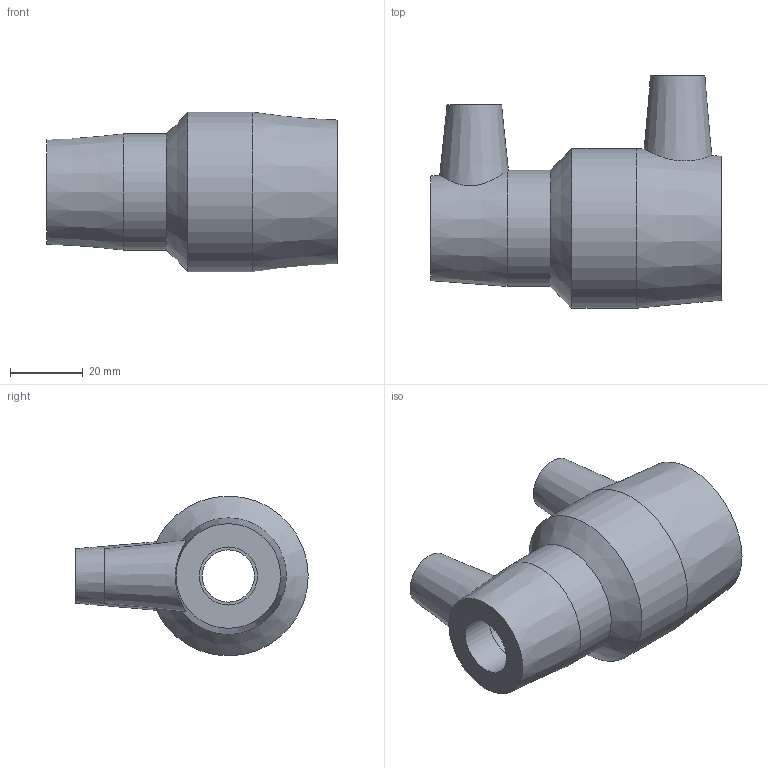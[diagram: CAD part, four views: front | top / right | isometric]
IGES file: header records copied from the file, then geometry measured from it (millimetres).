
Global section: file name: 491104032016.ipt; native system: Autodesk Inventor 2019; preprocessor: unknown; author: KIM; date: 20201207.222510; units: millimetre
Bounding box: 80 x 64 x 44 mm (x, y, z)
Volume: 57080.9 mm3; surface area: 20572.2 mm2
Topology: 1 solids, 1 shells, 32 faces, 74 edges, 52 vertices
Faces by surface type: plane 12, revolution 11, cone 5, cylinder 4
Full cylindrical faces by diameter (mm): 4 x2, 32 x1, 44 x1
